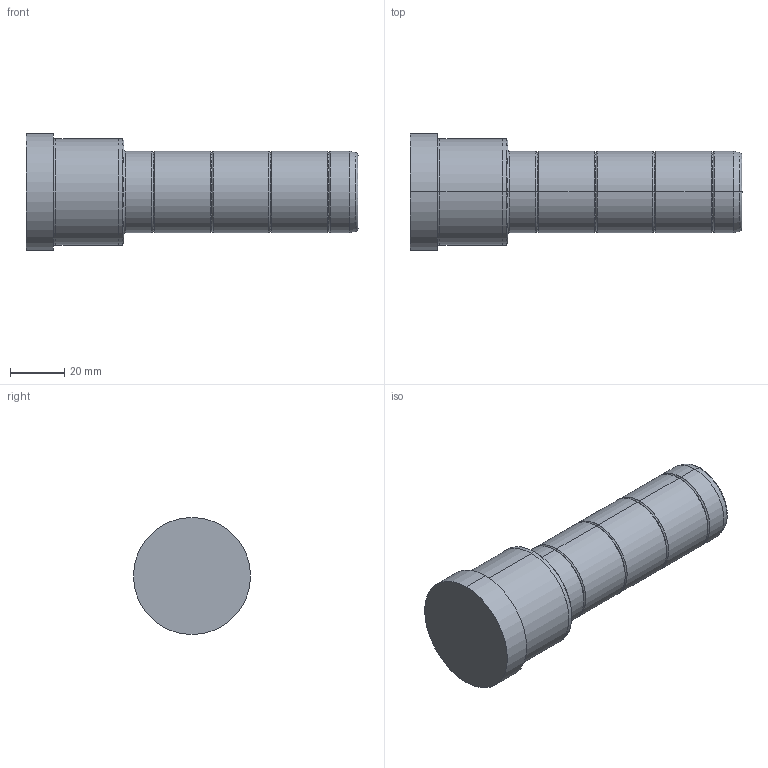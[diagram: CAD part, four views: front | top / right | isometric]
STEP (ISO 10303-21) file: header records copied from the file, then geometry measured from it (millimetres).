
FILE_DESCRIPTION( ( 'STEP AP203' ), '1' );
FILE_NAME( 'C:/Projects/D02 - 30x36x86.step', '2002-12-31T22:52:45', ( ' ' ), ( ' ' ), 'XStep 1.0', ' ', ' ' );
FILE_SCHEMA( ( 'CONFIG_CONTROL_DESIGN' ) );
Length unit declared in the file: metre
Products named in the file (1): 1
Bounding box: 122 x 43 x 43 mm (x, y, z)
Volume: 106121.7 mm3; surface area: 15604.3 mm2
Topology: 1 solids, 1 shells, 48 faces, 94 edges, 52 vertices
Faces by surface type: bspline 26, revolution 22
Entity records: 1523 total; most frequent: CARTESIAN_POINT 617, ORIENTED_EDGE 188, DIRECTION 150, EDGE_CURVE 94, AXIS2_PLACEMENT_3D 53, EDGE_LOOP 52, VERTEX_POINT 52, CIRCLE 52
